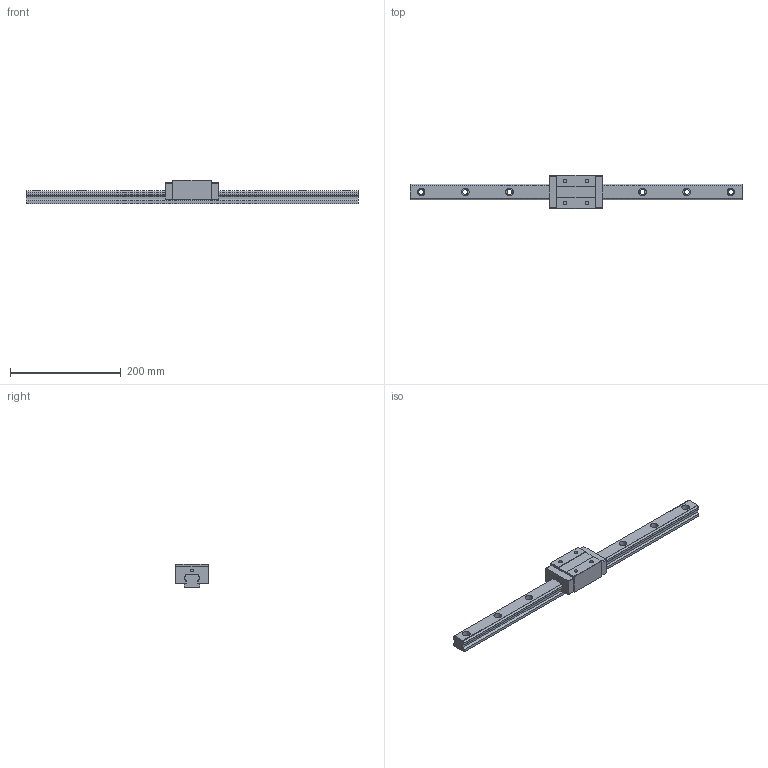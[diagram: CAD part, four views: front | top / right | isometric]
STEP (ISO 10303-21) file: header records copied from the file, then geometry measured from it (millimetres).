
FILE_DESCRIPTION (( 'STEP AP203' ), '1' );
FILE_NAME ('TRH30VN-XN.STEP', '2023-01-30T01:57:05', ( '' ), ( '' ), 'SwSTEP 2.0', 'SolidWorks 2019', '' );
FILE_SCHEMA (( 'CONFIG_CONTROL_DESIGN' ));
Length unit declared in the file: millimetre
Products named in the file (1): TRH30VN-XN
Bounding box: 600 x 60 x 42 mm (x, y, z)
Volume: 477606.4 mm3; surface area: 101222.9 mm2
Topology: 4 solids, 4 shells, 150 faces, 384 edges, 256 vertices
Faces by surface type: plane 86, cylinder 64
Entity records: 4679 total; most frequent: DIRECTION 814, CARTESIAN_POINT 791, ORIENTED_EDGE 768, EDGE_CURVE 384, AXIS2_PLACEMENT_3D 279, LINE 256, VECTOR 256, VERTEX_POINT 256
